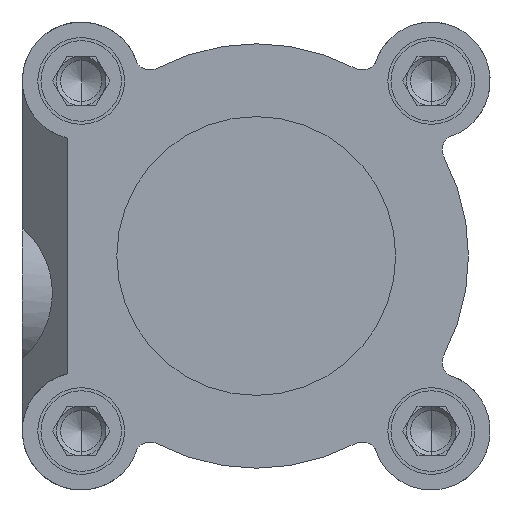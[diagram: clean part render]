
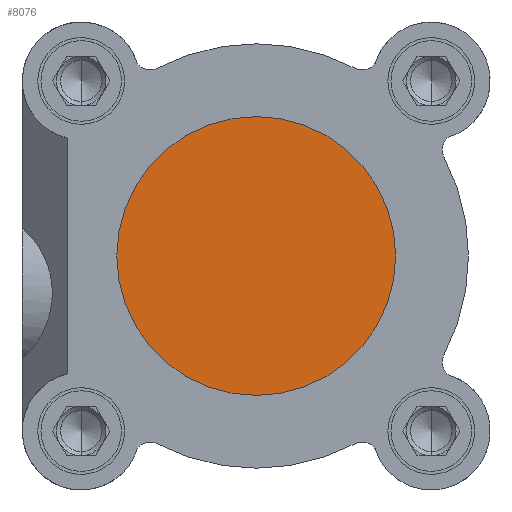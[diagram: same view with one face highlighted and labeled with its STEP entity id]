
A CAD part, left-side view. The second image highlights one B-rep face of the part: STEP entity #8076.
In plain terms, the highlighted planar face has unit normal (-1, 0, 0).
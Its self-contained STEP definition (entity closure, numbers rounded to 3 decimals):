
#212 = CARTESIAN_POINT ( 'NONE',  ( -275., 0., 22.5 ) ) ;
#1720 = EDGE_CURVE ( 'NONE', #10099, #8137, #5062, .T. ) ;
#2180 = CARTESIAN_POINT ( 'NONE',  ( -275., 0., 0. ) ) ;
#2715 = EDGE_CURVE ( 'NONE', #8137, #10099, #4965, .T. ) ;
#2998 = AXIS2_PLACEMENT_3D ( 'NONE', #10068, #4521, #5587 ) ;
#3107 = ORIENTED_EDGE ( 'NONE', *, *, #2715, .T. ) ;
#3230 = PLANE ( 'NONE',  #8548 ) ;
#4218 = CARTESIAN_POINT ( 'NONE',  ( -275., 0., -22.5 ) ) ;
#4521 = DIRECTION ( 'NONE',  ( -1., 0., 0. ) ) ;
#4965 = CIRCLE ( 'NONE', #10044, 22.5 ) ;
#5062 = CIRCLE ( 'NONE', #2998, 22.5 ) ;
#5587 = DIRECTION ( 'NONE',  ( 0., 0., 1. ) ) ;
#5931 = DIRECTION ( 'NONE',  ( 1., 0., 0. ) ) ;
#6104 = DIRECTION ( 'NONE',  ( 0., 0., 1. ) ) ;
#6231 = EDGE_LOOP ( 'NONE', ( #11414, #3107 ) ) ;
#7760 = DIRECTION ( 'NONE',  ( 0., 0., -1. ) ) ;
#8076 = ADVANCED_FACE ( 'NONE', ( #9472 ), #3230, .F. ) ;
#8137 = VERTEX_POINT ( 'NONE', #4218 ) ;
#8548 = AXIS2_PLACEMENT_3D ( 'NONE', #10518, #5931, #7760 ) ;
#8817 = DIRECTION ( 'NONE',  ( -1., 0., 0. ) ) ;
#9472 = FACE_OUTER_BOUND ( 'NONE', #6231, .T. ) ;
#10044 = AXIS2_PLACEMENT_3D ( 'NONE', #2180, #8817, #6104 ) ;
#10068 = CARTESIAN_POINT ( 'NONE',  ( -275., 0., 0. ) ) ;
#10099 = VERTEX_POINT ( 'NONE', #212 ) ;
#10518 = CARTESIAN_POINT ( 'NONE',  ( -275., 22.5, 0. ) ) ;
#11414 = ORIENTED_EDGE ( 'NONE', *, *, #1720, .T. ) ;
